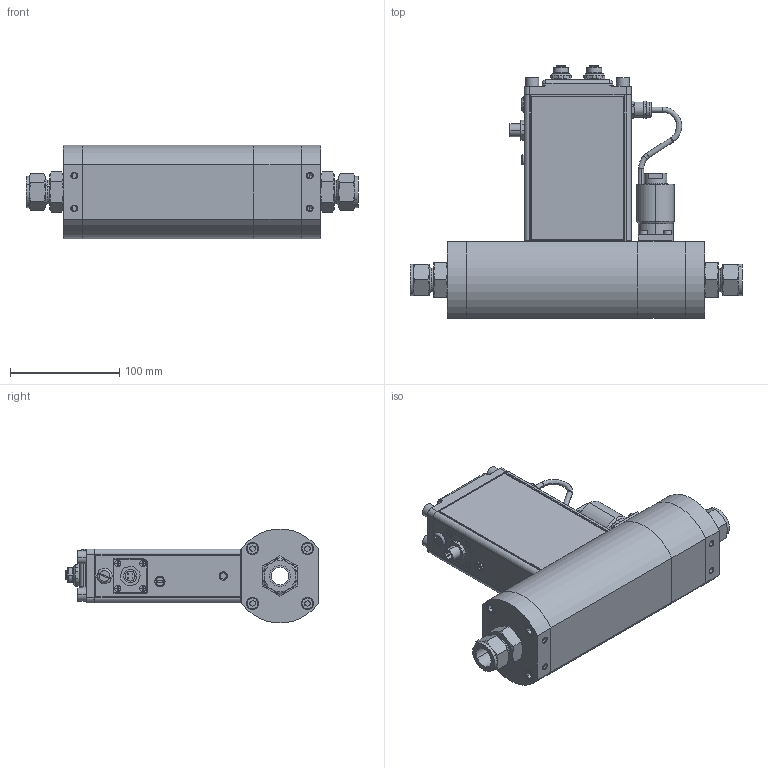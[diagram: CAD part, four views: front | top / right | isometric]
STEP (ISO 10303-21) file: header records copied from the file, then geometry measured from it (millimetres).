
FILE_DESCRIPTION (( 'STEP AP214' ), '1' );
FILE_NAME ('SLA5853-7-2E-2-A-REVB.STEP', '2024-11-19T14:27:22', ( '' ), ( '' ), 'SwSTEP 2.0', 'SolidWorks 2023', '' );
FILE_SCHEMA (( 'AUTOMOTIVE_DESIGN' ));
Length unit declared in the file: inch
Products named in the file (1): SLA5853-7-2E-2-A-REVB
Bounding box: 303.47 x 231.16 x 85.69 mm (x, y, z)
Volume: 411188.8 mm3; surface area: 303923.1 mm2
Topology: 49 solids, 51 shells, 1458 faces, 3505 edges, 2249 vertices
Faces by surface type: plane 610, cylinder 538, cone 225, bspline 77, torus 8
Entity records: 46006 total; most frequent: CARTESIAN_POINT 11015, DIRECTION 7349, ORIENTED_EDGE 6998, EDGE_CURVE 3499, AXIS2_PLACEMENT_3D 2811, VERTEX_POINT 2249, LINE 1727, VECTOR 1727
